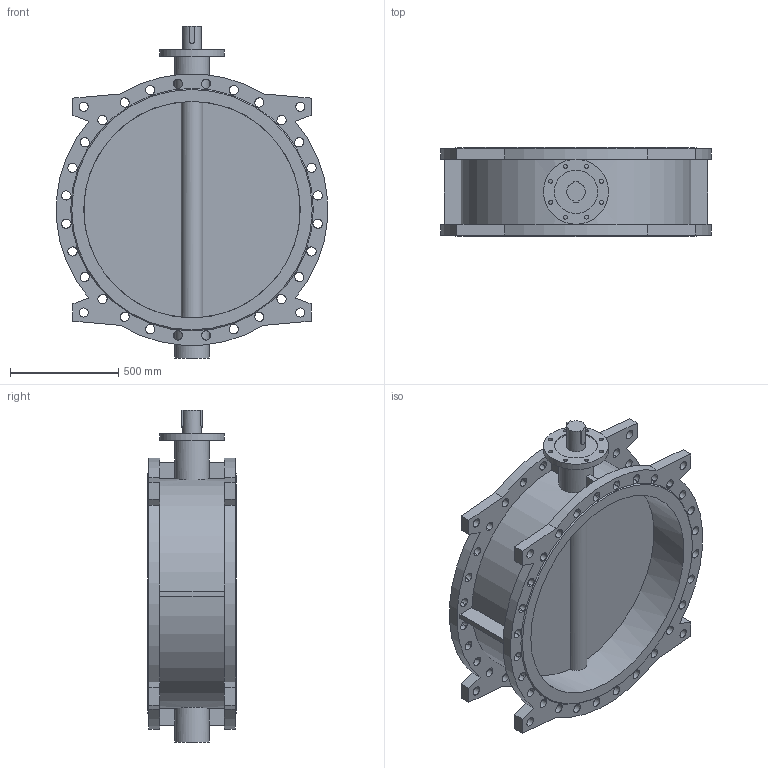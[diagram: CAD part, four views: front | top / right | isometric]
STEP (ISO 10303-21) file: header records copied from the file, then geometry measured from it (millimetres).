
FILE_DESCRIPTION(('STEP AP203'), '1');
FILE_NAME('Çàòâîð 021F.Y DN1000 PN10_16 ïîä ÝÏ', '', ('UNSPECIFIED'), ('UNSPECIFIED'), 'ASCON STEP Converter 1.6', 'ASCON Math Kernel', '');
FILE_SCHEMA(('CONFIG_CONTROL_DESIGN'));
Length unit declared in the file: millimetre
Bounding box: 1251.11 x 410 x 1533 mm (x, y, z)
Volume: 109930669.8 mm3; surface area: 6895486.3 mm2
Topology: 1 solids, 1 shells, 328 faces, 951 edges, 634 vertices
Faces by surface type: plane 175, cylinder 151, cone 2
Full cylindrical faces by diameter (mm): 18 x8, 42 x8, 85 x1, 160 x2, 200 x1, 300 x1, 1000 x2
Entity records: 14650 total; most frequent: CARTESIAN_POINT 2856, DIRECTION 1878, ORIENTED_EDGE 1852, EDGE_CURVE 926, AXIS2_PLACEMENT_3D 636, VERTEX_POINT 634, LINE 606, VECTOR 606
